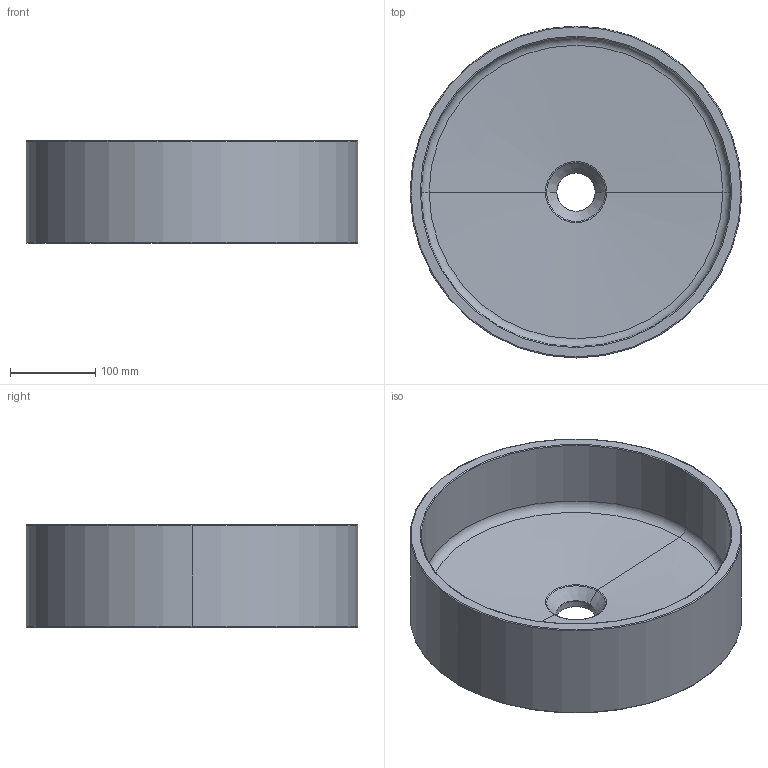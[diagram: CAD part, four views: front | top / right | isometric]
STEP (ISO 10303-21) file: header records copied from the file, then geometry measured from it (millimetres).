
FILE_DESCRIPTION((''),'2;1');
FILE_NAME('CS0015','2024-10-10T10:14:48',('Administrator'),(''),'CREO PARAMETRIC BY PTC INC, 2019010','CREO PARAMETRIC BY PTC INC, 2019010','');
FILE_SCHEMA(('CONFIG_CONTROL_DESIGN'));
Length unit declared in the file: millimetre
Products named in the file (1): CS0015
Bounding box: 390 x 390 x 120 mm (x, y, z)
Volume: 4599255.4 mm3; surface area: 482163.1 mm2
Topology: 1 solids, 1 shells, 24 faces, 48 edges, 26 vertices
Faces by surface type: torus 12, cylinder 6, cone 4, plane 2
Entity records: 668 total; most frequent: DIRECTION 134, CARTESIAN_POINT 98, ORIENTED_EDGE 96, AXIS2_PLACEMENT_3D 62, EDGE_CURVE 48, CIRCLE 38, VERTEX_POINT 26, EDGE_LOOP 26
